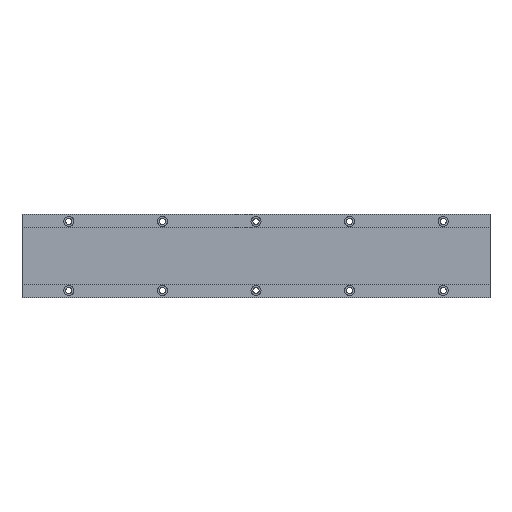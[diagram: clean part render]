
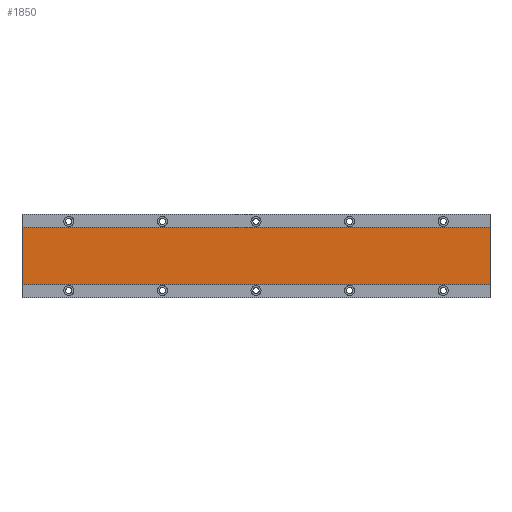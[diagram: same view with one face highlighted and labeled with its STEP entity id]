
A CAD part, top view. The second image highlights one B-rep face of the part: STEP entity #1850.
In plain terms, the highlighted planar face has unit normal (0, 0, 1).
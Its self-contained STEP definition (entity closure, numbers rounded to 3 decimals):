
#78 = CARTESIAN_POINT ( 'NONE',  ( -210., 25.75, 10.5 ) ) ;
#81 = VERTEX_POINT ( 'NONE', #104 ) ;
#86 = CARTESIAN_POINT ( 'NONE',  ( 210., -25.75, 10.5 ) ) ;
#104 = CARTESIAN_POINT ( 'NONE',  ( -210., -25.75, 10.5 ) ) ;
#115 = LINE ( 'NONE', #1054, #1245 ) ;
#273 = VECTOR ( 'NONE', #1365, 1000. ) ;
#284 = LINE ( 'NONE', #1364, #1282 ) ;
#306 = EDGE_CURVE ( 'NONE', #1386, #1139, #115, .T. ) ;
#431 = DIRECTION ( 'NONE',  ( 1., 0., 0. ) ) ;
#529 = EDGE_CURVE ( 'NONE', #1494, #1386, #284, .T. ) ;
#590 = CARTESIAN_POINT ( 'NONE',  ( -210., -25.75, 10.5 ) ) ;
#616 = FACE_OUTER_BOUND ( 'NONE', #1065, .T. ) ;
#628 = LINE ( 'NONE', #590, #1480 ) ;
#688 = CARTESIAN_POINT ( 'NONE',  ( 210., 25.75, 10.5 ) ) ;
#765 = DIRECTION ( 'NONE',  ( 1., 0., 0. ) ) ;
#842 = EDGE_CURVE ( 'NONE', #81, #1494, #628, .T. ) ;
#885 = DIRECTION ( 'NONE',  ( -1., 0., 0. ) ) ;
#1054 = CARTESIAN_POINT ( 'NONE',  ( -210., 25.75, 10.5 ) ) ;
#1065 = EDGE_LOOP ( 'NONE', ( #1382, #1550, #1638, #1777 ) ) ;
#1086 = LINE ( 'NONE', #78, #273 ) ;
#1120 = EDGE_CURVE ( 'NONE', #1139, #81, #1086, .T. ) ;
#1139 = VERTEX_POINT ( 'NONE', #1355 ) ;
#1245 = VECTOR ( 'NONE', #885, 1000. ) ;
#1282 = VECTOR ( 'NONE', #1791, 1000. ) ;
#1355 = CARTESIAN_POINT ( 'NONE',  ( -210., 25.75, 10.5 ) ) ;
#1356 = PLANE ( 'NONE',  #1657 ) ;
#1364 = CARTESIAN_POINT ( 'NONE',  ( 210., 25.75, 10.5 ) ) ;
#1365 = DIRECTION ( 'NONE',  ( 0., -1., 0. ) ) ;
#1382 = ORIENTED_EDGE ( 'NONE', *, *, #1120, .T. ) ;
#1386 = VERTEX_POINT ( 'NONE', #688 ) ;
#1480 = VECTOR ( 'NONE', #431, 1000. ) ;
#1494 = VERTEX_POINT ( 'NONE', #86 ) ;
#1501 = DIRECTION ( 'NONE',  ( 0., 0., 1. ) ) ;
#1550 = ORIENTED_EDGE ( 'NONE', *, *, #842, .T. ) ;
#1629 = CARTESIAN_POINT ( 'NONE',  ( 0., 0., 10.5 ) ) ;
#1638 = ORIENTED_EDGE ( 'NONE', *, *, #529, .T. ) ;
#1657 = AXIS2_PLACEMENT_3D ( 'NONE', #1629, #1501, #765 ) ;
#1777 = ORIENTED_EDGE ( 'NONE', *, *, #306, .T. ) ;
#1791 = DIRECTION ( 'NONE',  ( 0., 1., 0. ) ) ;
#1850 = ADVANCED_FACE ( 'NONE', ( #616 ), #1356, .T. ) ;
